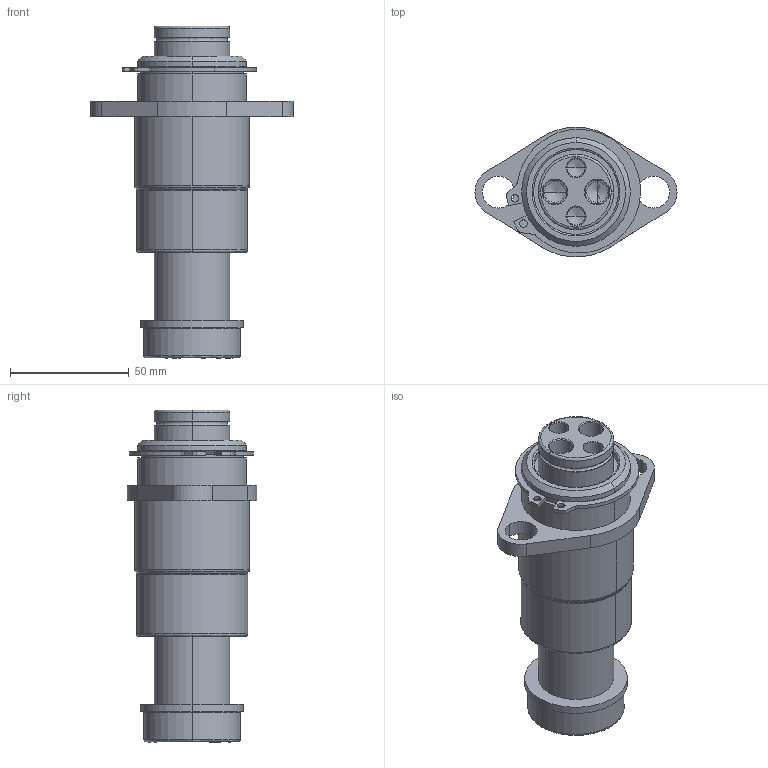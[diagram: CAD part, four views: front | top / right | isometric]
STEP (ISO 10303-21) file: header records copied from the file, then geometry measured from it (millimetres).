
FILE_DESCRIPTION (( 'STEP AP214' ), '1' );
FILE_NAME ('GK120-N3-1-TB-M-XXX.STEP', '2020-09-21T16:06:49', ( '' ), ( '' ), 'SwSTEP 2.0', 'SolidWorks 2017', '' );
FILE_SCHEMA (( 'AUTOMOTIVE_DESIGN' ));
Length unit declared in the file: inch
Products named in the file (7): GK120-M-XXX-GuidePin; GK1.25-N3-1-TB-Base; RetainingRing; GK120-DampeningWasher; GK120-N3-1-TB-M-XXX
Assembly tree (6 placements, depth 3):
  GK120-N3-1-TB-M-XXX
    GK1.25-N3-1-TB-Base
      GK1.25-N3-1-TB-Base
      RetainingRing
    GK120-M-XXX-GuidePin
      GK120-M-XXX-GuidePin
      GK120-DampeningWasher
Bounding box: 85.09 x 54.52 x 139.7 mm (x, y, z)
Volume: 196961.4 mm3; surface area: 48699.1 mm2
Topology: 4 solids, 4 shells, 137 faces, 321 edges, 194 vertices
Faces by surface type: cylinder 63, cone 30, plane 24, bspline 20
Entity records: 4958 total; most frequent: CARTESIAN_POINT 1287, DIRECTION 739, ORIENTED_EDGE 626, EDGE_CURVE 313, AXIS2_PLACEMENT_3D 308, VERTEX_POINT 194, CIRCLE 180, EDGE_LOOP 159
